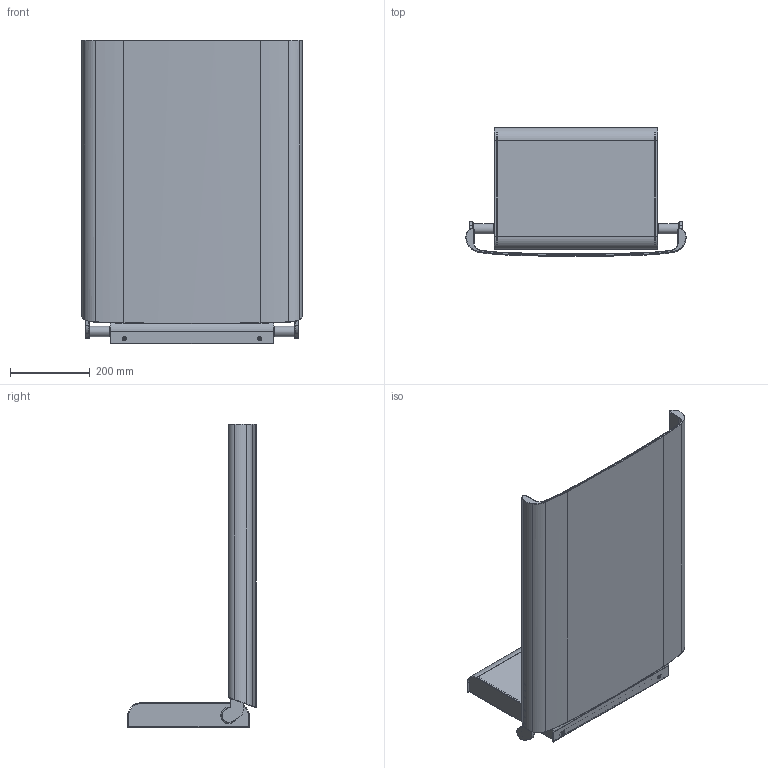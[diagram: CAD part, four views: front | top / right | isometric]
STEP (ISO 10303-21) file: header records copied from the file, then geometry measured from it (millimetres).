
FILE_DESCRIPTION(/* description */ (''),/* implementation_level */ '2;1');
FILE_NAME(/* name */ 'X:\Standardvarer\3200 - 3220 Björk puslebord\Tegninger\Public\3200 - simplified - down.stp',/* time_stamp */ '2017-12-19T11:22:52+01:00',/* author */ ('Dan Dryer'),/* organization */ (''),/* preprocessor_version */ 'ST-DEVELOPER v15.6',/* originating_system */ 'Autodesk Inventor 2015',/* authorisation */ '');
FILE_SCHEMA (('AUTOMOTIVE_DESIGN { 1 0 10303 214 3 1 1 }'));
Length unit declared in the file: centimetre
Products named in the file (1): 3200 - simplified - down
Bounding box: 551.44 x 322.86 x 760.27 mm (x, y, z)
Volume: 4041566.1 mm3; surface area: 1658128.9 mm2
Topology: 2 solids, 28 shells, 830 faces, 1974 edges, 1234 vertices
Faces by surface type: plane 334, cylinder 330, cone 100, torus 42, bspline 24
Full cylindrical faces by diameter (mm): 3.242 x4, 4 x14, 4.6 x14, 5 x8, 5.5 x8, 7 x8, 7.5 x8, 7.8 x8, 8.7 x2, 9.43 x8, 10 x6, 15 x2, 16 x2, 26 x2, 33 x4, 35 x8, 39 x1, 41 x2, 45 x1
Entity records: 23829 total; most frequent: CARTESIAN_POINT 4998, DIRECTION 3970, ORIENTED_EDGE 3400, EDGE_CURVE 1700, AXIS2_PLACEMENT_3D 1599, VERTEX_POINT 1158, EDGE_LOOP 1134, FACE_OUTER_BOUND 830
